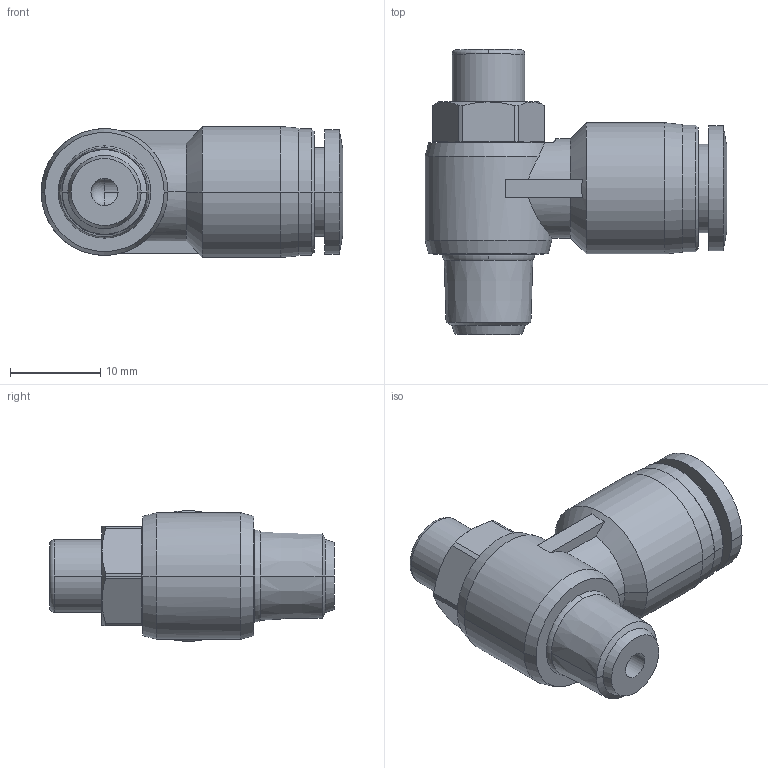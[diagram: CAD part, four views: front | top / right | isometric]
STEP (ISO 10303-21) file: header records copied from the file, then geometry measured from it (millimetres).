
FILE_DESCRIPTION (( 'STEP AP203' ), '1' );
FILE_NAME ('SCLF08-01.STEP', '2020-05-13T17:30:44', ( '' ), ( '' ), 'SwSTEP 2.0', 'SolidWorks 2019', '' );
FILE_SCHEMA (( 'CONFIG_CONTROL_DESIGN' ));
Length unit declared in the file: millimetre
Products named in the file (1): SCLF08-01
Bounding box: 33.35 x 31.5 x 14.5 mm (x, y, z)
Volume: 4895.5 mm3; surface area: 3420.6 mm2
Topology: 1 solids, 1 shells, 126 faces, 306 edges, 188 vertices
Faces by surface type: plane 45, cylinder 41, cone 32, torus 4, bspline 3, sphere 1
Entity records: 4281 total; most frequent: CARTESIAN_POINT 1265, DIRECTION 651, ORIENTED_EDGE 602, EDGE_CURVE 301, AXIS2_PLACEMENT_3D 261, VERTEX_POINT 188, EDGE_LOOP 139, CIRCLE 137
